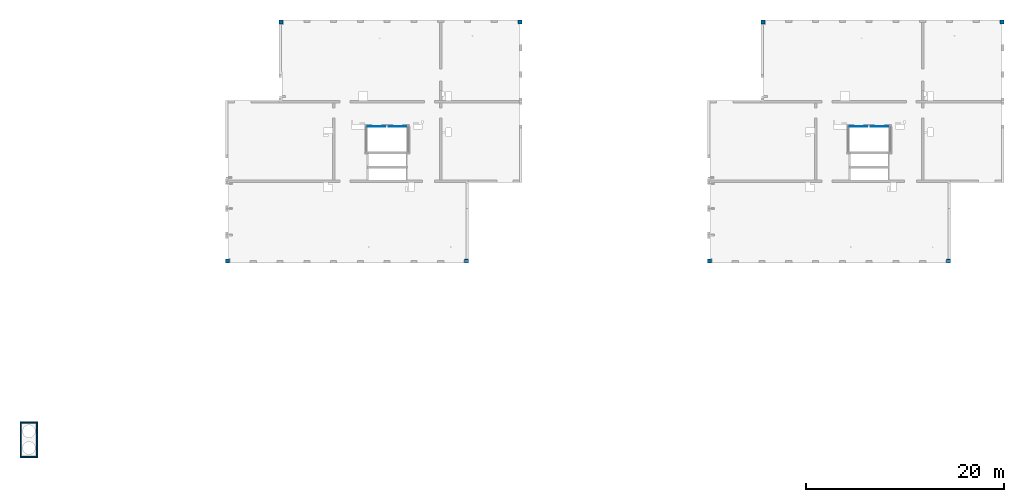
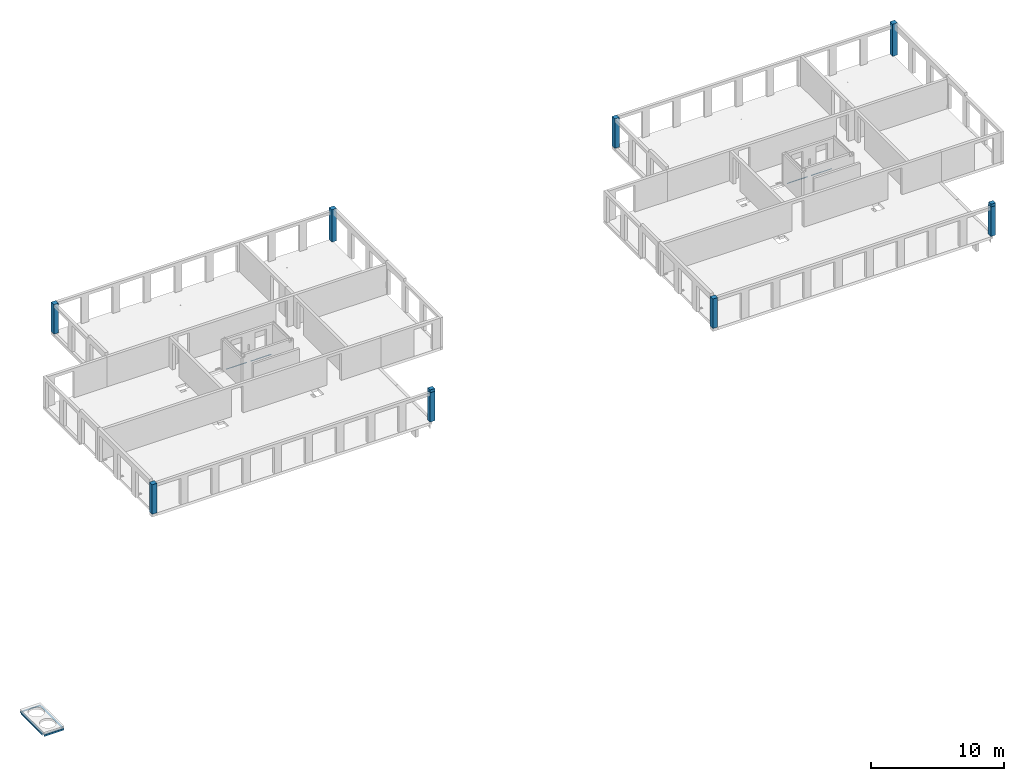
# One storey, part 1 of 12: 10 columns, 8 beams.
"""IFC2X3 building model written with IfcOpenShell, lengths in millimetres."""

from ifc_helpers import new_model, entity, si_unit, converted_unit, derived_unit, direction, frame, frame_2d, origin, origin_2d_with_axis, place, context, subcontext, project, spatial, polyline, circle_curve, parameter, trimmed, segment, composite_curve, rectangle, outline, extrude, source, transform, mapped, material, type_object, type_shapes, element, save


model = new_model("IFC2X3")

# Units and contexts
model_context = context("Model", 3, precision=0.01, world=origin(), true_north=direction((6.12303176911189e-17, 1.0)))
body_context = subcontext(model_context, "Body", "Model", "MODEL_VIEW")
ifc_project = project(units=[si_unit("LENGTHUNIT", "METRE", prefix="MILLI"), si_unit("AREAUNIT", "SQUARE_METRE"), si_unit("VOLUMEUNIT", "CUBIC_METRE"), converted_unit("PLANEANGLEUNIT", "DEGREE", entity("IfcRatioMeasure", 0.0174532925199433), si_unit("PLANEANGLEUNIT", "RADIAN"), dimensions=[0, 0, 0, 0, 0, 0, 0]), si_unit("MASSUNIT", "GRAM", prefix="KILO"), derived_unit("MASSDENSITYUNIT", [(si_unit("MASSUNIT", "GRAM", prefix="KILO"), 1), (si_unit("LENGTHUNIT", "METRE"), -3)]), si_unit("TIMEUNIT", "SECOND"), si_unit("FREQUENCYUNIT", "HERTZ"), si_unit("THERMODYNAMICTEMPERATUREUNIT", "DEGREE_CELSIUS"), derived_unit("THERMALTRANSMITTANCEUNIT", [(si_unit("MASSUNIT", "GRAM", prefix="KILO"), 1), (si_unit("THERMODYNAMICTEMPERATUREUNIT", "KELVIN"), -1), (si_unit("TIMEUNIT", "SECOND"), -3)]), derived_unit("VOLUMETRICFLOWRATEUNIT", [(si_unit("LENGTHUNIT", "METRE"), 3), (si_unit("TIMEUNIT", "SECOND"), -1)]), si_unit("ELECTRICCURRENTUNIT", "AMPERE"), si_unit("ELECTRICVOLTAGEUNIT", "VOLT"), si_unit("POWERUNIT", "WATT"), si_unit("FORCEUNIT", "NEWTON", prefix="KILO"), si_unit("ILLUMINANCEUNIT", "LUX"), si_unit("LUMINOUSFLUXUNIT", "LUMEN"), si_unit("LUMINOUSINTENSITYUNIT", "CANDELA"), derived_unit("USERDEFINED", [(si_unit("MASSUNIT", "GRAM", prefix="KILO"), -1), (si_unit("LENGTHUNIT", "METRE"), -2), (si_unit("TIMEUNIT", "SECOND"), 3), (si_unit("LUMINOUSFLUXUNIT", "LUMEN"), 1)]), derived_unit("LINEARVELOCITYUNIT", [(si_unit("LENGTHUNIT", "METRE"), 1), (si_unit("TIMEUNIT", "SECOND"), -1)]), si_unit("PRESSUREUNIT", "PASCAL"), derived_unit("USERDEFINED", [(si_unit("LENGTHUNIT", "METRE"), -2), (si_unit("MASSUNIT", "GRAM", prefix="KILO"), 1), (si_unit("TIMEUNIT", "SECOND"), -2)])], contexts=[model_context])

# Site, building, storey
site_placement = place(None, origin())
site = spatial("IfcSite", under=ifc_project, at=site_placement, Name="Default", CompositionType="ELEMENT")
building_placement = place(site_placement, origin())
building = spatial("IfcBuilding", under=site, at=building_placement, Name="niet gebruiken", CompositionType="ELEMENT")
storey_placement = place(building_placement, frame((0.0, 0.0, 18540.0)))
storey = spatial("IfcBuildingStorey", under=building, at=storey_placement, Name="06 zesde verdieping", CompositionType="ELEMENT", Elevation=18540.0)

# Columns
ifc_material_1 = material(Name="NLRS_f2_beton prefab")
column_type_1 = type_object("IfcColumnType", Name="410x410", PredefinedType="COLUMN", material=ifc_material_1)
shared_shape_1 = source(origin(), body_context, "Body", "SweptSolid", [
    extrude(rectangle(XDim=410.000000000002, YDim=409.999999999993, at=origin_2d_with_axis()), frame((99795.0, 28961.0, 18470.0), z_axis=(0.0, 0.0, 1.0), x_axis=(0.0, -1.0, 0.0)), (0.0, 0.0, 1.0), 2700.0),
])
type_shapes(column_type_1, [shared_shape_1])
column_1_placement = place(storey_placement, frame((0.0, 0.0, -18540.0)))
element("IfcColumn", 1, at=column_1_placement, inside=storey, type_object=column_type_1, material=ifc_material_1, Name="NLRS_28. kolom vierkant_gen:410x410", ObjectType="410x410", context=body_context, shape_type="MappedRepresentation", body=[
    mapped(shared_shape_1, transform((0.0, 0.0, 0.0), scale=1.0)),
])
column_type_2 = type_object("IfcColumnType", Name="410x410", PredefinedType="COLUMN", material=ifc_material_1)
shared_shape_2 = source(origin(), body_context, "Body", "SweptSolid", [
    extrude(rectangle(XDim=410.0, YDim=410.0, at=origin_2d_with_axis()), frame((0.0, 0.0, 18470.0), z_axis=(0.0, 0.0, 1.0), x_axis=(0.0, -1.0, 0.0)), (0.0, 0.0, 1.0), 2699.99999999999),
])
type_shapes(column_type_2, [shared_shape_2])
for number, where, z_axis, x_axis, name in (
    (2, (75705.0, 28961.0, -18540.0), (0.0, 0.0, 1.0), (0.0, 1.0, 0.0), "NLRS_28. kolom vierkant_gen1:410x410"),
    (3, (27105.0, 28961.0, -18540.0), (0.0, 0.0, 1.0), (0.0, 1.0, 0.0), "NLRS_28. kolom vierkant_gen1:410x410"),
):
    element("IfcColumn", number, at=place(storey_placement, frame(where, z_axis=z_axis, x_axis=x_axis)), inside=storey, type_object=column_type_2, material=ifc_material_1, Name=name, ObjectType="410x410", context=body_context, shape_type="MappedRepresentation", body=[
        mapped(shared_shape_2, transform((0.0, 0.0, 0.0), scale=1.0)),
    ])
column_type_3 = type_object("IfcColumnType", Name="410x410", PredefinedType="COLUMN", material=ifc_material_1)
shared_shape_3 = source(origin(), body_context, "Body", "SweptSolid", [
    extrude(rectangle(XDim=410.000000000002, YDim=409.999999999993, at=frame_2d((-8.66862137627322e-12, 0.0), x_axis=(1.0, 0.0))), frame((105195.0, 53051.0, 18470.0), z_axis=(0.0, 0.0, 1.0), x_axis=(0.0, -1.0, 0.0)), (0.0, 0.0, 1.0), 2949.99999999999),
])
type_shapes(column_type_3, [shared_shape_3])
column_2_placement = place(storey_placement, frame((0.0, 0.0, -18540.0)))
element("IfcColumn", 4, at=column_2_placement, inside=storey, type_object=column_type_3, material=ifc_material_1, Name="NLRS_28. kolom vierkant_gen:410x410", ObjectType="410x410", context=body_context, shape_type="MappedRepresentation", body=[
    mapped(shared_shape_3, transform((0.0, 0.0, 0.0), scale=1.0)),
])
column_type_4 = type_object("IfcColumnType", Name="410x410", PredefinedType="COLUMN", material=ifc_material_1)
shared_shape_4 = source(origin(), body_context, "Body", "SweptSolid", [
    extrude(rectangle(XDim=410.000000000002, YDim=409.999999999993, at=origin_2d_with_axis()), frame((81105.0, 53051.0, 18470.0), z_axis=(0.0, 0.0, 1.0), x_axis=(0.0, -1.0, 0.0)), (0.0, 0.0, 1.0), 2700.0),
])
type_shapes(column_type_4, [shared_shape_4])
column_3_placement = place(storey_placement, frame((0.0, 0.0, -18540.0)))
element("IfcColumn", 5, at=column_3_placement, inside=storey, type_object=column_type_4, material=ifc_material_1, Name="NLRS_28. kolom vierkant_gen:410x410", ObjectType="410x410", context=body_context, shape_type="MappedRepresentation", body=[
    mapped(shared_shape_4, transform((0.0, 0.0, 0.0), scale=1.0)),
])
column_type_5 = type_object("IfcColumnType", Name="410x410", PredefinedType="COLUMN", material=ifc_material_1)
shared_shape_5 = source(origin(), body_context, "Body", "SweptSolid", [
    extrude(rectangle(XDim=410.000000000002, YDim=410.000000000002, at=frame_2d((4.33431068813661e-12, 0.0), x_axis=(1.0, 0.0))), frame((51195.0, 28961.0, 18470.0), z_axis=(0.0, 0.0, 1.0), x_axis=(0.0, -1.0, 0.0)), (0.0, 0.0, 1.0), 2700.0),
])
type_shapes(column_type_5, [shared_shape_5])
column_4_placement = place(storey_placement, frame((0.0, 0.0, -18540.0)))
element("IfcColumn", 6, at=column_4_placement, inside=storey, type_object=column_type_5, material=ifc_material_1, Name="NLRS_28. kolom vierkant_gen:410x410", ObjectType="410x410", context=body_context, shape_type="MappedRepresentation", body=[
    mapped(shared_shape_5, transform((0.0, 0.0, 0.0), scale=1.0)),
])
column_type_6 = type_object("IfcColumnType", Name="410x410", PredefinedType="COLUMN", material=ifc_material_1)
shared_shape_6 = source(origin(), body_context, "Body", "SweptSolid", [
    extrude(rectangle(XDim=410.000000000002, YDim=410.000000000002, at=origin_2d_with_axis()), frame((56595.0, 53051.0, 18470.0), z_axis=(0.0, 0.0, 1.0), x_axis=(0.0, -1.0, 0.0)), (0.0, 0.0, 1.0), 2949.99999999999),
])
type_shapes(column_type_6, [shared_shape_6])
column_5_placement = place(storey_placement, frame((0.0, 0.0, -18540.0)))
element("IfcColumn", 7, at=column_5_placement, inside=storey, type_object=column_type_6, material=ifc_material_1, Name="NLRS_28. kolom vierkant_gen:410x410", ObjectType="410x410", context=body_context, shape_type="MappedRepresentation", body=[
    mapped(shared_shape_6, transform((0.0, 0.0, 0.0), scale=1.0)),
])
column_type_7 = type_object("IfcColumnType", Name="410x410", PredefinedType="COLUMN", material=ifc_material_1)
shared_shape_7 = source(origin(), body_context, "Body", "SweptSolid", [
    extrude(rectangle(XDim=410.000000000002, YDim=409.999999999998, at=frame_2d((8.66862137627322e-12, 0.0), x_axis=(1.0, 0.0))), frame((32505.0, 53051.0, 18470.0), z_axis=(0.0, 0.0, 1.0), x_axis=(0.0, -1.0, 0.0)), (0.0, 0.0, 1.0), 2700.0),
])
type_shapes(column_type_7, [shared_shape_7])
column_6_placement = place(storey_placement, frame((0.0, 0.0, -18540.0)))
element("IfcColumn", 8, at=column_6_placement, inside=storey, type_object=column_type_7, material=ifc_material_1, Name="NLRS_28. kolom vierkant_gen:410x410", ObjectType="410x410", context=body_context, shape_type="MappedRepresentation", body=[
    mapped(shared_shape_7, transform((0.0, 0.0, 0.0), scale=1.0)),
])
column_type_8 = type_object("IfcColumnType", Name="410x360", PredefinedType="COLUMN", material=ifc_material_1)
shared_shape_8 = source(origin(), body_context, "Body", "SweptSolid", [
    extrude(rectangle(XDim=360.0, YDim=410.000000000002, at=origin_2d_with_axis()), frame((51195.0, 28936.0, 21170.0), z_axis=(0.0, 0.0, 1.0), x_axis=(0.0, -1.0, 0.0)), (0.0, 0.0, 1.0), 249.999999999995),
])
type_shapes(column_type_8, [shared_shape_8])
column_7_placement = place(storey_placement, frame((0.0, 0.0, -18540.0)))
element("IfcColumn", 9, at=column_7_placement, inside=storey, type_object=column_type_8, material=ifc_material_1, Name="NLRS_28. kolom vierkant_gen:410x360", ObjectType="410x360", context=body_context, shape_type="MappedRepresentation", body=[
    mapped(shared_shape_8, transform((0.0, 0.0, 0.0), scale=1.0)),
])
column_type_9 = type_object("IfcColumnType", Name="410x360", PredefinedType="COLUMN", material=ifc_material_1)
shared_shape_9 = source(origin(), body_context, "Body", "SweptSolid", [
    extrude(rectangle(XDim=360.0, YDim=409.999999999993, at=origin_2d_with_axis()), frame((99795.0, 28936.0, 21170.0), z_axis=(0.0, 0.0, 1.0), x_axis=(0.0, -1.0, 0.0)), (0.0, 0.0, 1.0), 249.999999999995),
])
type_shapes(column_type_9, [shared_shape_9])
column_8_placement = place(storey_placement, frame((0.0, 0.0, -18540.0)))
element("IfcColumn", 10, at=column_8_placement, inside=storey, type_object=column_type_9, material=ifc_material_1, Name="NLRS_28. kolom vierkant_gen:410x360", ObjectType="410x360", context=body_context, shape_type="MappedRepresentation", body=[
    mapped(shared_shape_9, transform((0.0, 0.0, 0.0), scale=1.0)),
])

# Beams
ifc_material_2 = material(Name="NLRS_h2_staal")
beam_type_1 = type_object("IfcBeamType", Name="NLRS_28.11_SF_WPB_stalen ligger hoekprofiel gelijkzijdig_gen:ligger gelijzijdig hoekprofiel LEQU_150x150x15", PredefinedType="BEAM")
beam_1_placement = place(storey_placement, frame((6175.0, 9136.0, -1150.0), z_axis=(0.0, 0.0, 1.0), x_axis=(0.0, 1.0, 0.0)))
element("IfcBeam", 11, at=beam_1_placement, inside=storey, type_object=beam_type_1, material=ifc_material_2, Name="NLRS_28.11_SF_WPB_stalen ligger hoekprofiel gelijkzijdig_gen:ligger gelijzijdig hoekprofiel LEQU_150x150x15", ObjectType="NLRS_28.11_SF_WPB_stalen ligger hoekprofiel gelijkzijdig_gen:ligger gelijzijdig hoekprofiel LEQU_150x150x15", context=body_context, shape_type="SweptSolid", body=[
    extrude(outline(composite_curve([segment(polyline([(-56.6666666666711, -93.3333333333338), (-49.6666666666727, -93.3333333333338)]), True, "CONTINUOUS"), segment(trimmed(circle_curve(frame_2d((-49.6666666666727, -85.3333333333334), x_axis=(0.0, -1.0)), 8.00000000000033), [parameter(0.0)], [parameter(90.0000000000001)], True, "PARAMETER"), True, "CONTINUOUS"), segment(polyline([(-41.6666666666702, -85.3333333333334), (-41.6666666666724, 25.6666666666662)]), True, "CONTINUOUS"), segment(trimmed(circle_curve(frame_2d((-25.6666666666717, 25.6666666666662), x_axis=(-1.0, 0.0)), 15.9999999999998), [parameter(270.0)], [parameter(0.0)], True, "PARAMETER"), False, "CONTINUOUS"), segment(polyline([(-25.6666666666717, 41.6666666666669), (85.3333333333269, 41.6666666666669)]), True, "CONTINUOUS"), segment(trimmed(circle_curve(frame_2d((85.3333333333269, 49.6666666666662), x_axis=(0.0, -1.0)), 8.00000000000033), [parameter(0.0)], [parameter(90.0000000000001)], True, "PARAMETER"), True, "CONTINUOUS"), segment(polyline([(93.3333333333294, 49.6666666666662), (93.3333333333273, 56.6666666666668)]), True, "CONTINUOUS"), segment(polyline([(93.3333333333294, 56.6666666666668), (-56.6666666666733, 56.6666666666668)]), True, "CONTINUOUS"), segment(polyline([(-56.6666666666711, 56.6666666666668), (-56.6666666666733, -93.3333333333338)]), True, "CONTINUOUS")], self_intersect=False)), frame((175.0, -56.6666666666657, -56.6666666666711), z_axis=(1.0, 0.0, 0.0), x_axis=(0.0, 0.0, -1.0)), (0.0, 0.0, 1.0), 3250.00000000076),
])
beam_2_placement = place(storey_placement, frame((7975.0, 12736.0, -1150.0), z_axis=(0.0, 0.0, 1.0), x_axis=(-1.0, 0.0, 0.0)))
element("IfcBeam", 12, at=beam_2_placement, inside=storey, type_object=beam_type_1, material=ifc_material_2, Name="NLRS_28.11_SF_WPB_stalen ligger hoekprofiel gelijkzijdig_gen:ligger gelijzijdig hoekprofiel LEQU_150x150x15", ObjectType="NLRS_28.11_SF_WPB_stalen ligger hoekprofiel gelijkzijdig_gen:ligger gelijzijdig hoekprofiel LEQU_150x150x15", context=body_context, shape_type="SweptSolid", body=[
    extrude(outline(composite_curve([segment(polyline([(-56.6666666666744, -56.6666666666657), (93.3333333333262, -56.6666666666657)]), True, "CONTINUOUS"), segment(polyline([(93.3333333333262, -56.6666666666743), (93.3333333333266, -49.6666666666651)]), True, "CONTINUOUS"), segment(trimmed(circle_curve(frame_2d((85.3333333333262, -49.6666666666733), x_axis=(1.0, 0.0)), 8.00000000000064), [parameter(0.0)], [parameter(90.0000000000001)], True, "PARAMETER"), True, "CONTINUOUS"), segment(polyline([(85.3333333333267, -41.666666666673), (-25.6666666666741, -41.6666666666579)]), True, "CONTINUOUS"), segment(trimmed(circle_curve(frame_2d((-25.666666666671, -25.666666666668), x_axis=(0.0, -1.0)), 16.0), [parameter(270.0)], [parameter(0.0)], True, "PARAMETER"), False, "CONTINUOUS"), segment(polyline([(-41.6666666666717, -25.6666666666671), (-41.6666666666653, 85.3333333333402)]), True, "CONTINUOUS"), segment(trimmed(circle_curve(frame_2d((-49.6666666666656, 85.3333333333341), x_axis=(1.0, 0.0)), 8.00000000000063), [parameter(0.0)], [parameter(90.0000000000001)], True, "PARAMETER"), True, "CONTINUOUS"), segment(polyline([(-49.6666666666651, 93.3333333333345), (-56.6666666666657, 93.3333333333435)]), True, "CONTINUOUS"), segment(polyline([(-56.6666666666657, 93.3333333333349), (-56.6666666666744, -56.666666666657)]), True, "CONTINUOUS")], self_intersect=False)), frame((25.0, 56.6666666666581, -56.6666666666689), z_axis=(1.0, 0.0, 0.0), x_axis=(0.0, 0.0, -1.0)), (0.0, 0.0, 1.0), 1749.99999999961),
])
beam_3_placement = place(storey_placement, frame((7975.0, 9136.0, -1150.0), z_axis=(0.0, 0.0, 1.0), x_axis=(-1.0, 0.0, 0.0)))
element("IfcBeam", 13, at=beam_3_placement, inside=storey, type_object=beam_type_1, material=ifc_material_2, Name="NLRS_28.11_SF_WPB_stalen ligger hoekprofiel gelijkzijdig_gen:ligger gelijzijdig hoekprofiel LEQU_150x150x15", ObjectType="NLRS_28.11_SF_WPB_stalen ligger hoekprofiel gelijkzijdig_gen:ligger gelijzijdig hoekprofiel LEQU_150x150x15", context=body_context, shape_type="SweptSolid", body=[
    extrude(outline(composite_curve([segment(polyline([(-56.6666666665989, -93.3333333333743), (-49.6666666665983, -93.3333333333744)]), True, "CONTINUOUS"), segment(trimmed(circle_curve(frame_2d((-49.6666666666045, -85.333333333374), x_axis=(0.0, -1.0)), 8.00000000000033), [parameter(0.0)], [parameter(90.0000000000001)], True, "PARAMETER"), True, "CONTINUOUS"), segment(polyline([(-41.6666666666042, -85.3333333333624), (-41.66666666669, 25.6666666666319)]), True, "CONTINUOUS"), segment(trimmed(circle_curve(frame_2d((-25.6666666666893, 25.6666666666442), x_axis=(-1.0, 0.0)), 15.9999999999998), [parameter(270.0)], [parameter(0.0)], True, "PARAMETER"), False, "CONTINUOUS"), segment(polyline([(-25.6666666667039, 41.6666666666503), (85.3333333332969, 41.6666666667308)]), True, "CONTINUOUS"), segment(trimmed(circle_curve(frame_2d((85.3333333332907, 49.66666666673), x_axis=(0.0, -1.0)), 8.00000000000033), [parameter(0.0)], [parameter(90.0000000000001)], True, "PARAMETER"), True, "CONTINUOUS"), segment(polyline([(93.333333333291, 49.6666666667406), (93.3333333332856, 56.6666666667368)]), True, "CONTINUOUS"), segment(polyline([(93.3333333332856, 56.6666666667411), (-56.6666666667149, 56.6666666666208)]), True, "CONTINUOUS"), segment(polyline([(-56.6666666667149, 56.6666666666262), (-56.6666666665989, -93.3333333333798)]), True, "CONTINUOUS")], self_intersect=False)), frame((25.0, -56.6666666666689, -56.6666666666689), z_axis=(1.0, 0.0, 0.0), x_axis=(0.0, 0.0, -1.0)), (0.0, 0.0, 1.0), 1749.99999999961),
])
beam_4_placement = place(storey_placement, frame((7975.0, 9136.0, -1150.0), z_axis=(0.0, 0.0, 1.0), x_axis=(0.0, 1.0, 0.0)))
element("IfcBeam", 14, at=beam_4_placement, inside=storey, type_object=beam_type_1, material=ifc_material_2, Name="NLRS_28.11_SF_WPB_stalen ligger hoekprofiel gelijkzijdig_gen:ligger gelijzijdig hoekprofiel LEQU_150x150x15", ObjectType="NLRS_28.11_SF_WPB_stalen ligger hoekprofiel gelijkzijdig_gen:ligger gelijzijdig hoekprofiel LEQU_150x150x15", context=body_context, shape_type="SweptSolid", body=[
    extrude(outline(composite_curve([segment(polyline([(-56.6666666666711, -56.6666666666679), (93.3333333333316, -56.6666666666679)]), True, "CONTINUOUS"), segment(polyline([(93.3333333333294, -56.6666666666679), (93.3333333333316, -49.6666666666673)]), True, "CONTINUOUS"), segment(trimmed(circle_curve(frame_2d((85.3333333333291, -49.6666666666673), x_axis=(1.0, 0.0)), 8.00000000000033), [parameter(0.0)], [parameter(90.0000000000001)], True, "PARAMETER"), True, "CONTINUOUS"), segment(polyline([(85.3333333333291, -41.666666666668), (-25.6666666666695, -41.666666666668)]), True, "CONTINUOUS"), segment(trimmed(circle_curve(frame_2d((-25.6666666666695, -25.6666666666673), x_axis=(0.0, -1.0)), 15.9999999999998), [parameter(270.0)], [parameter(0.0)], True, "PARAMETER"), False, "CONTINUOUS"), segment(polyline([(-41.6666666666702, -25.6666666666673), (-41.666666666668, 85.3333333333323)]), True, "CONTINUOUS"), segment(trimmed(circle_curve(frame_2d((-49.6666666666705, 85.3333333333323), x_axis=(1.0, 0.0)), 8.00000000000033), [parameter(0.0)], [parameter(90.0000000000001)], True, "PARAMETER"), True, "CONTINUOUS"), segment(polyline([(-49.6666666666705, 93.3333333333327), (-56.6666666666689, 93.3333333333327)]), True, "CONTINUOUS"), segment(polyline([(-56.6666666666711, 93.3333333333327), (-56.6666666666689, -56.6666666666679)]), True, "CONTINUOUS")], self_intersect=False)), frame((175.0, 56.6666666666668, -56.6666666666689), z_axis=(1.0, 0.0, 0.0), x_axis=(0.0, 0.0, -1.0)), (0.0, 0.0, 1.0), 3250.00000000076),
])
beam_type_2 = type_object("IfcBeamType", Name="NLRS_28.11_SF_WPB_Halfen 40-22_gen:ligger stripstaal RECT_100x10", PredefinedType="BEAM")
for number, where, name in (
    (15, (41264.9998491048, 42496.0, -160.0), "NLRS_28.11_SF_WPB_Halfen 40-22_gen:ligger stripstaal RECT_100x10"),
    (16, (43374.999849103, 42496.0, -160.0), "NLRS_28.11_SF_WPB_Halfen 40-22_gen:ligger stripstaal RECT_100x10"),
):
    element("IfcBeam", number, at=place(storey_placement, frame(where)), inside=storey, type_object=beam_type_2, material=ifc_material_2, Name=name, ObjectType="NLRS_28.11_SF_WPB_Halfen 40-22_gen:ligger stripstaal RECT_100x10", context=body_context, shape_type="SweptSolid", body=[
        extrude(outline(polyline([(-20.0, -8.0), (-9.0, -8.0), (-9.0, 0.0), (-11.0, 0.0), (-11.0, -6.0), (-18.0, -6.0), (-18.0, 13.0), (18.0, 13.0), (18.0, -6.0), (11.0, -6.0), (11.0, 0.0), (9.0, 0.0), (9.0, -8.0), (20.0, -8.0), (20.0, 15.0), (-20.0, 15.0), (-20.0, -8.0)])), frame((0.0, 8.0, 20.0), z_axis=(1.0, 0.0, 0.0), x_axis=(0.0, 0.0, -1.0)), (0.0, 0.0, 1.0), 1760.00000000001),
    ])
beam_5_placement = place(storey_placement, frame((89865.0, 42496.0, -160.0)))
element("IfcBeam", 17, at=beam_5_placement, inside=storey, type_object=beam_type_2, material=ifc_material_2, Name="NLRS_28.11_SF_WPB_Halfen 40-22_gen:ligger stripstaal RECT_100x10", ObjectType="NLRS_28.11_SF_WPB_Halfen 40-22_gen:ligger stripstaal RECT_100x10", context=body_context, shape_type="SweptSolid", body=[
    extrude(outline(polyline([(-20.0, -8.0), (-9.0, -8.0), (-9.0, 0.0), (-11.0, 0.0), (-11.0, -6.0), (-18.0, -6.0), (-18.0, 13.0), (18.0, 13.0), (18.0, -6.0), (11.0, -6.0), (11.0, 0.0), (9.0, 0.0), (9.0, -8.0), (20.0, -8.0), (20.0, 15.0), (-20.0, 15.0), (-20.0, -8.0)])), frame((0.0, 8.0, 20.0), z_axis=(1.0, 0.0, 0.0), x_axis=(0.0, 0.0, -1.0)), (0.0, 0.0, 1.0), 1760.00000000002),
])
beam_6_placement = place(storey_placement, frame((91975.0, 42496.0, -160.0)))
element("IfcBeam", 18, at=beam_6_placement, inside=storey, type_object=beam_type_2, material=ifc_material_2, Name="NLRS_28.11_SF_WPB_Halfen 40-22_gen:ligger stripstaal RECT_100x10", ObjectType="NLRS_28.11_SF_WPB_Halfen 40-22_gen:ligger stripstaal RECT_100x10", context=body_context, shape_type="SweptSolid", body=[
    extrude(outline(polyline([(-20.0, -8.0), (-9.0, -8.0), (-9.0, 0.0), (-11.0, 0.0), (-11.0, -6.0), (-18.0, -6.0), (-18.0, 13.0), (18.0, 13.0), (18.0, -6.0), (11.0, -6.0), (11.0, 0.0), (9.0, 0.0), (9.0, -8.0), (20.0, -8.0), (20.0, 15.0), (-20.0, 15.0), (-20.0, -8.0)])), frame((0.0, 8.0, 20.0), z_axis=(1.0, 0.0, 0.0), x_axis=(0.0, 0.0, -1.0)), (0.0, 0.0, 1.0), 1760.0),
])

save(model, "model.ifc")
